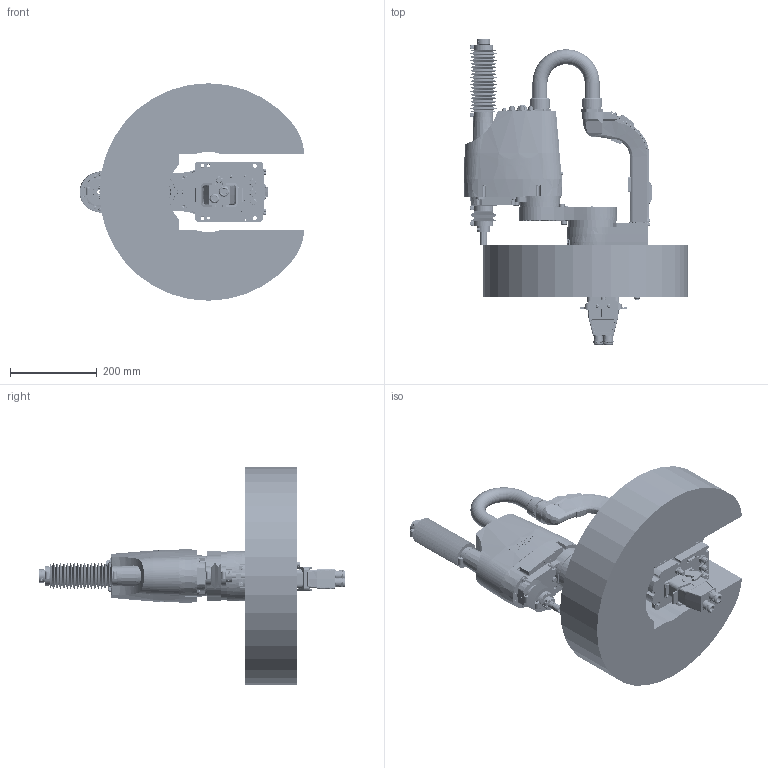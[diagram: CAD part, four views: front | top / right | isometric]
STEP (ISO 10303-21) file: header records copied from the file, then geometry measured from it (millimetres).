
FILE_DESCRIPTION( ( 'STEP AP214' ), '1' );
FILE_NAME( 'C:/Users/9607552/Desktop/GX4-A/GX4-A251CB-SW.stp', '2023-04-07T04:38:18', ( '' ), ( '' ), ' ', 'PARTsolutions', ' ' );
FILE_SCHEMA( ( 'AUTOMOTIVE_DESIGN { 1 0 10303 214 1 1 1 1 }' ) );
Length unit declared in the file: millimetre
Products named in the file (10): GX4-A251CB-SW; _A251CBbasesb; _A251S_J1_ARM; _A251S-a; _A251S_CONDUIT; _A251C; _A251C-long; _A251C-short; _Straight; _GX4-22_WS
Assembly tree (9 placements, depth 2):
  GX4-A251CB-SW
    _A251CBbasesb
    _A251S_J1_ARM
    _A251S-a
    _A251S_CONDUIT
    _A251C
    _A251C-long
    _A251C-short
    _Straight
    _GX4-22_WS
Bounding box: 517.13 x 703.85 x 500 mm (x, y, z)
Volume: 25551381 mm3; surface area: 1436952.2 mm2
Topology: 9 solids, 9 shells, 4243 faces, 10405 edges, 6761 vertices
Faces by surface type: plane 2444, cylinder 1140, cone 450, torus 122, bspline 86, sphere 1
Full cylindrical faces by diameter (mm): 1 x30, 1.13 x55, 1.18 x55, 2.459 x4, 2.5 x16, 3 x48, 3.2 x3, 3.242 x1, 3.3 x41, 3.4 x32, 3.5 x12, 4 x5, 4.5 x16, 4.8 x4, 4.917 x2, 5.34 x8, 5.4 x14, 5.5 x26, 5.6 x2, 5.68 x4, 6 x21, 6.5 x12, 6.7 x4, 6.8 x4, 6.98 x4, 7 x37, 7.1 x4, 8 x21, 8.08 x1, 8.2 x8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
Entity records: 159682 total; most frequent: CARTESIAN_POINT 30926, DIRECTION 18823, ORIENTED_EDGE 18690, EDGE_CURVE 9345, AXIS2_PLACEMENT_3D 7165, VERTEX_POINT 6650, EDGE_LOOP 5804, FACE_OUTER_BOUND 4913
